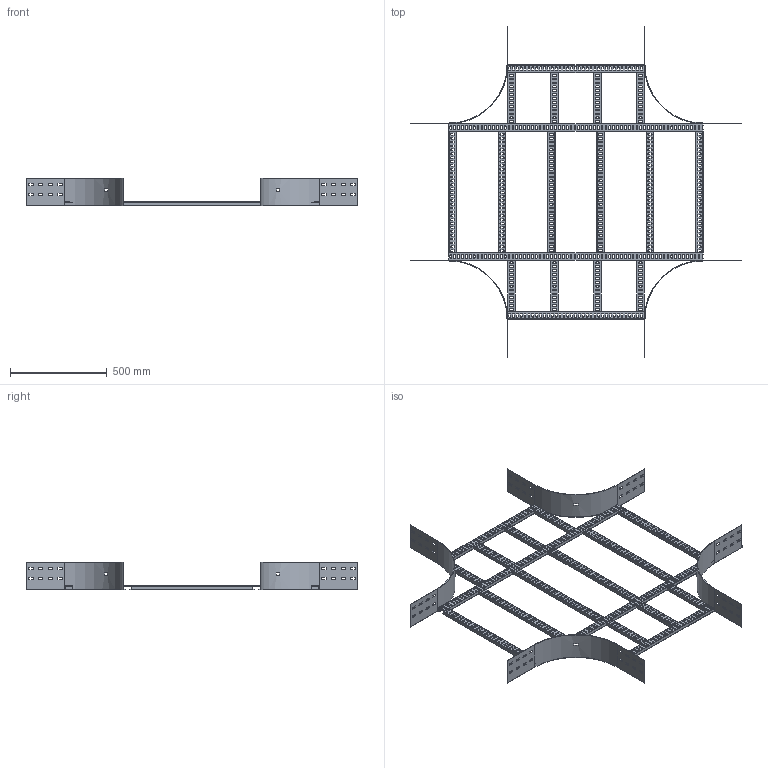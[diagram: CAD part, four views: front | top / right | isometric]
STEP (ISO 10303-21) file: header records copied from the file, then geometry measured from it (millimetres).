
FILE_DESCRIPTION(/* description */ ('','CAx-IF Rec.Pracs.---Representation and Presentation of Product Manufacturing Information (PMI)---4.0---2014-10-13'),/* implementation_level */ '2;1');
FILE_NAME(/* name */ 'Eurostrut_ECO150-700-300_Crossover for Cable Ladder ECL.step',/* time_stamp */ '2026-09-03T13:36:40+02:00',/* author */ (''),/* organization */ (''),/* preprocessor_version */ 'ST-DEVELOPER v20.1',/* originating_system */ 'Autodesk Revit 2027 27.2.0.39',/* authorisation */ '');
FILE_SCHEMA (('AP242_MANAGED_MODEL_BASED_3D_ENGINEERING_MIM_LF { 1 0 10303 442 2 1 4 }'));
Length unit declared in the file: millimetre
Products named in the file (10): TopLevelAssembly; Sweep; Sweep_1; Sweep_2; Sweep_3; Eurostrut_Cable Ladder_Rung_With slots; Eurostrut_Cable Ladder_Rung_With slots_1; Eurostrut_Cable Ladder_Rung Array Straight_Slotted; Eurostrut_Cable Ladder_Rung Array Straight_Slotted_1; Eurostrut_Cable Ladder_Accessory End_54-94-142
Assembly tree (19 placements, depth 2):
  TopLevelAssembly
    Sweep
    Sweep_1
    Eurostrut_Cable Ladder_Rung_With slots  x2
    Eurostrut_Cable Ladder_Rung_With slots_1  x2
    Sweep_2
    Sweep_3
    Eurostrut_Cable Ladder_Rung Array Straight_Slotted
    Eurostrut_Cable Ladder_Rung Array Straight_Slotted_1  x2
    Eurostrut_Cable Ladder_Accessory End_54-94-142  x8
Bounding box: 1711 x 1711 x 142 mm (x, y, z)
Volume: 2651323.1 mm3; surface area: 2694722.1 mm2
Topology: 30 solids, 30 shells, 2636 faces, 7728 edges, 5152 vertices
Faces by surface type: plane 1572, bspline 984, cylinder 80
Entity records: 75754 total; most frequent: CARTESIAN_POINT 30713, ORIENTED_EDGE 9696, DIRECTION 8334, EDGE_CURVE 4848, LINE 3364, VECTOR 3364, VERTEX_POINT 3232, AXIS2_PLACEMENT_3D 2485
